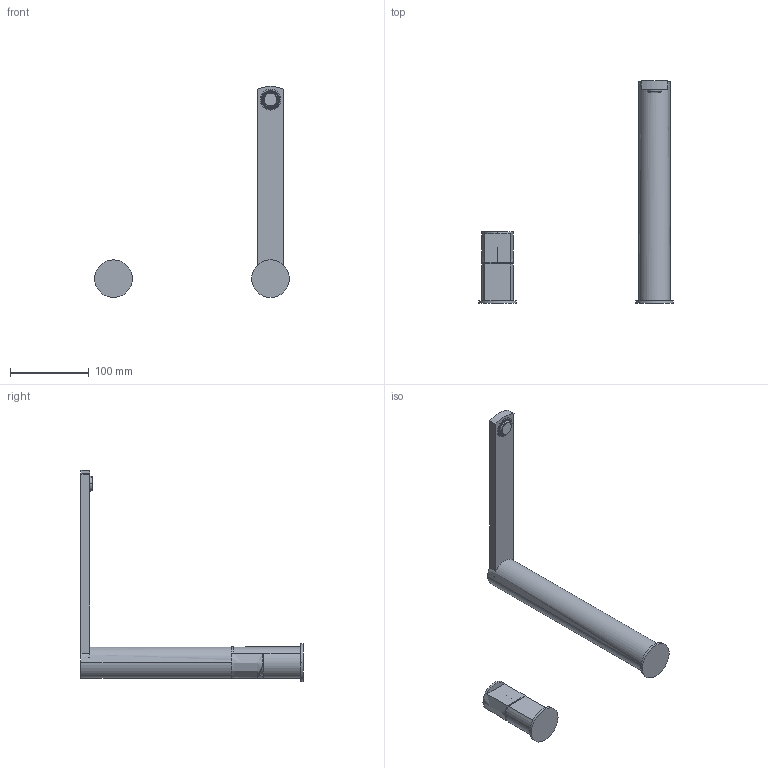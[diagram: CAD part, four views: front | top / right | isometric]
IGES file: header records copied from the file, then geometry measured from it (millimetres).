
Start section:  PTC IGES file: 89058a21_sw0001.igs
Global section: file name: 89058a21_sw0001.igs; native system: Creo Parametric by PTC Inc.; preprocessor: 2018100; author: carloff; organization: Unknown; date: 20200618.164050; units: millimetre
Bounding box: 247.91 x 283 x 268.85 mm (x, y, z)
Surface area: 135160.3 mm2 (no closed solid volume)
Topology: 0 solids, 0 shells, 3060 faces, 16000 edges, 15998 vertices
Faces by surface type: bspline 2505, revolution 555
